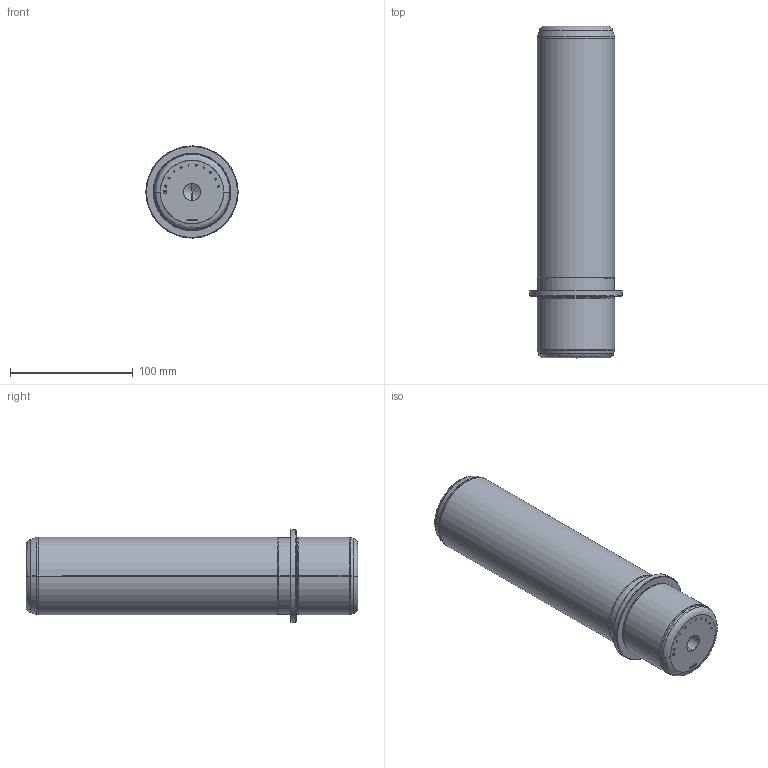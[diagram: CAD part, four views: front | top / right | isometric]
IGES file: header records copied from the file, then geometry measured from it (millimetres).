
Start section: SolidWorks IGES file using analytic representation for surfaces
Global section: file name: D:\Cleonir_arquivos\MT_15_07\Pinos Desmontáveis\PFG63220.igs; native system: SolidWorks 2013; preprocessor: SolidWorks 2013; author: Cleonir; date: 130730.162707; units: millimetre
Bounding box: 75 x 270 x 75 mm (x, y, z)
Surface area: 65047.5 mm2 (no closed solid volume)
Topology: 0 solids, 0 shells, 322 faces, 3848 edges, 3844 vertices
Faces by surface type: bspline 281, revolution 41
